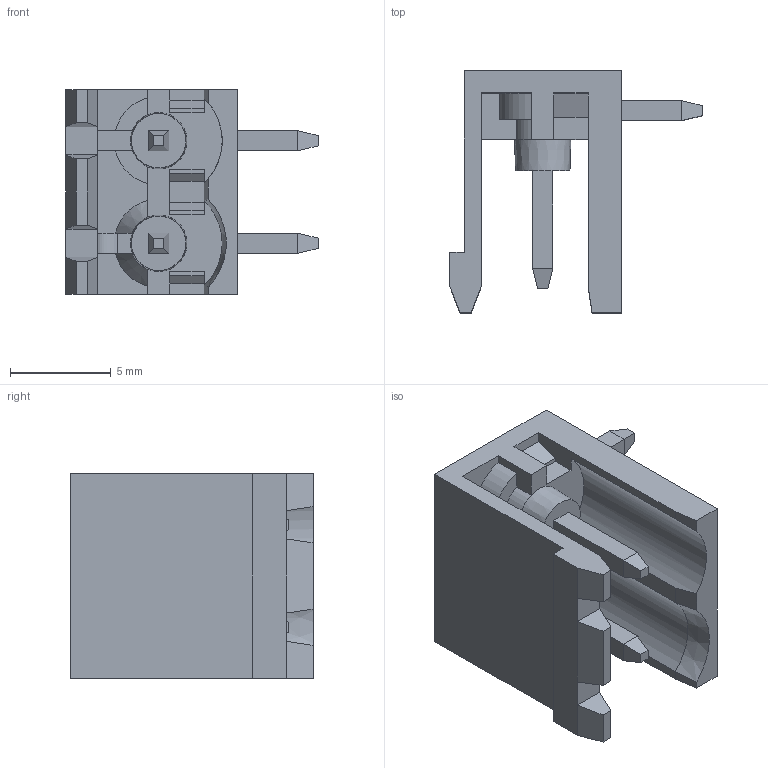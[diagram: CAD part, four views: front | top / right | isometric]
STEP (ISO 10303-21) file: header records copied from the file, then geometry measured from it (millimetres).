
FILE_DESCRIPTION(('FreeCAD Model'),'2;1');
FILE_NAME('Open CASCADE Shape Model','2022-11-10T15:39:30',( 'Engenharia Meltaltex'),('Engenharia Meltaltex'), 'Open CASCADE STEP processor 7.5','FreeCAD','Unknown');
FILE_SCHEMA(('AUTOMOTIVE_DESIGN { 1 0 10303 214 1 1 1 1 }'));
Length unit declared in the file: millimetre
Products named in the file (2): BR8MN1-02; SOLID
Assembly tree (1 placements, depth 2):
  BR8MN1-02
    SOLID
Bounding box: 12.5 x 12 x 10.16 mm (x, y, z)
Volume: 391.5 mm3; surface area: 937.7 mm2
Topology: 1 solids, 1 shells, 185 faces, 486 edges, 303 vertices
Faces by surface type: plane 163, cylinder 11, cone 7, sphere 4
Entity records: 5579 total; most frequent: CARTESIAN_POINT 1031, ORIENTED_EDGE 964, DIRECTION 887, EDGE_CURVE 482, LINE 421, VECTOR 421, VERTEX_POINT 303, AXIS2_PLACEMENT_3D 233
